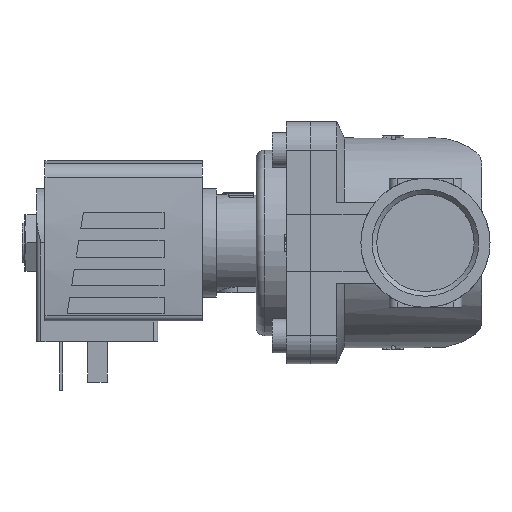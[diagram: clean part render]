
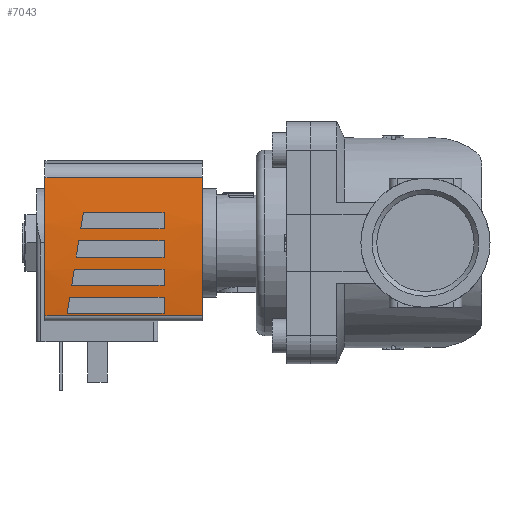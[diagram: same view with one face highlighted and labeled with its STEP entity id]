
A CAD part, left-side view. The second image highlights one B-rep face of the part: STEP entity #7043.
In plain terms, the highlighted cylindrical face has radius 130 mm (diameter 260 mm), a partial arc.
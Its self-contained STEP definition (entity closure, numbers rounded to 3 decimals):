
#169=ELLIPSE('',#7626,131.653,130.);
#170=ELLIPSE('',#7628,131.653,130.);
#171=ELLIPSE('',#7631,131.653,130.);
#172=ELLIPSE('',#7633,131.653,130.);
#252=CYLINDRICAL_SURFACE('',#7625,130.);
#647=LINE('',#11056,#1153);
#649=LINE('',#11076,#1155);
#650=LINE('',#11080,#1156);
#651=LINE('',#11081,#1157);
#652=LINE('',#11086,#1158);
#653=LINE('',#11091,#1159);
#654=LINE('',#11095,#1160);
#655=LINE('',#11099,#1161);
#656=LINE('',#11103,#1162);
#657=LINE('',#11107,#1163);
#1153=VECTOR('',#9075,1000.);
#1155=VECTOR('',#9097,1000.);
#1156=VECTOR('',#9100,1000.);
#1157=VECTOR('',#9101,1000.);
#1158=VECTOR('',#9104,1000.);
#1159=VECTOR('',#9109,1000.);
#1160=VECTOR('',#9112,1000.);
#1161=VECTOR('',#9115,1000.);
#1162=VECTOR('',#9118,1000.);
#1163=VECTOR('',#9121,1000.);
#2567=ORIENTED_EDGE('',*,*,#3619,.F.);
#2568=ORIENTED_EDGE('',*,*,#3620,.F.);
#2569=ORIENTED_EDGE('',*,*,#3621,.F.);
#2570=ORIENTED_EDGE('',*,*,#3622,.F.);
#2571=ORIENTED_EDGE('',*,*,#3623,.F.);
#2572=ORIENTED_EDGE('',*,*,#3624,.F.);
#2573=ORIENTED_EDGE('',*,*,#3625,.F.);
#2574=ORIENTED_EDGE('',*,*,#3626,.F.);
#2575=ORIENTED_EDGE('',*,*,#3627,.T.);
#2576=ORIENTED_EDGE('',*,*,#3628,.F.);
#2577=ORIENTED_EDGE('',*,*,#3613,.F.);
#2578=ORIENTED_EDGE('',*,*,#3610,.T.);
#2579=ORIENTED_EDGE('',*,*,#3629,.F.);
#2580=ORIENTED_EDGE('',*,*,#3630,.F.);
#2581=ORIENTED_EDGE('',*,*,#3631,.F.);
#2582=ORIENTED_EDGE('',*,*,#3632,.F.);
#2583=ORIENTED_EDGE('',*,*,#3633,.F.);
#2584=ORIENTED_EDGE('',*,*,#3634,.F.);
#2585=ORIENTED_EDGE('',*,*,#3635,.F.);
#2586=ORIENTED_EDGE('',*,*,#3636,.F.);
#3610=EDGE_CURVE('',#4241,#4240,#647,.T.);
#3613=EDGE_CURVE('',#4241,#4243,#4526,.T.);
#3619=EDGE_CURVE('',#4247,#4248,#169,.T.);
#3620=EDGE_CURVE('',#4249,#4247,#649,.F.);
#3621=EDGE_CURVE('',#4250,#4249,#4531,.T.);
#3622=EDGE_CURVE('',#4248,#4250,#650,.T.);
#3623=EDGE_CURVE('',#4251,#4252,#651,.T.);
#3624=EDGE_CURVE('',#4253,#4251,#170,.T.);
#3625=EDGE_CURVE('',#4254,#4253,#652,.F.);
#3626=EDGE_CURVE('',#4252,#4254,#4532,.T.);
#3627=EDGE_CURVE('',#4240,#4255,#4533,.T.);
#3628=EDGE_CURVE('',#4243,#4255,#653,.T.);
#3629=EDGE_CURVE('',#4256,#4257,#171,.T.);
#3630=EDGE_CURVE('',#4258,#4256,#654,.F.);
#3631=EDGE_CURVE('',#4259,#4258,#4534,.T.);
#3632=EDGE_CURVE('',#4257,#4259,#655,.T.);
#3633=EDGE_CURVE('',#4260,#4261,#172,.T.);
#3634=EDGE_CURVE('',#4262,#4260,#656,.F.);
#3635=EDGE_CURVE('',#4263,#4262,#4535,.T.);
#3636=EDGE_CURVE('',#4261,#4263,#657,.T.);
#4240=VERTEX_POINT('',#11055);
#4241=VERTEX_POINT('',#11057);
#4243=VERTEX_POINT('',#11063);
#4247=VERTEX_POINT('',#11074);
#4248=VERTEX_POINT('',#11075);
#4249=VERTEX_POINT('',#11077);
#4250=VERTEX_POINT('',#11079);
#4251=VERTEX_POINT('',#11082);
#4252=VERTEX_POINT('',#11083);
#4253=VERTEX_POINT('',#11085);
#4254=VERTEX_POINT('',#11087);
#4255=VERTEX_POINT('',#11090);
#4256=VERTEX_POINT('',#11093);
#4257=VERTEX_POINT('',#11094);
#4258=VERTEX_POINT('',#11096);
#4259=VERTEX_POINT('',#11098);
#4260=VERTEX_POINT('',#11101);
#4261=VERTEX_POINT('',#11102);
#4262=VERTEX_POINT('',#11104);
#4263=VERTEX_POINT('',#11106);
#4526=CIRCLE('',#7620,130.);
#4531=CIRCLE('',#7627,130.);
#4532=CIRCLE('',#7629,130.);
#4533=CIRCLE('',#7630,130.);
#4534=CIRCLE('',#7632,130.);
#4535=CIRCLE('',#7634,130.);
#4853=EDGE_LOOP('',(#2567,#2568,#2569,#2570));
#4854=EDGE_LOOP('',(#2571,#2572,#2573,#2574));
#4855=EDGE_LOOP('',(#2575,#2576,#2577,#2578));
#4856=EDGE_LOOP('',(#2579,#2580,#2581,#2582));
#4857=EDGE_LOOP('',(#2583,#2584,#2585,#2586));
#5249=FACE_BOUND('',#4853,.T.);
#5250=FACE_BOUND('',#4854,.T.);
#5251=FACE_BOUND('',#4855,.T.);
#5252=FACE_BOUND('',#4856,.T.);
#5253=FACE_BOUND('',#4857,.T.);
#7043=ADVANCED_FACE('',(#5249,#5250,#5251,#5252,#5253),#252,.T.);
#7620=AXIS2_PLACEMENT_3D('',#11062,#9082,#9083);
#7625=AXIS2_PLACEMENT_3D('',#11072,#9093,#9094);
#7626=AXIS2_PLACEMENT_3D('',#11073,#9095,#9096);
#7627=AXIS2_PLACEMENT_3D('',#11078,#9098,#9099);
#7628=AXIS2_PLACEMENT_3D('',#11084,#9102,#9103);
#7629=AXIS2_PLACEMENT_3D('',#11088,#9105,#9106);
#7630=AXIS2_PLACEMENT_3D('',#11089,#9107,#9108);
#7631=AXIS2_PLACEMENT_3D('',#11092,#9110,#9111);
#7632=AXIS2_PLACEMENT_3D('',#11097,#9113,#9114);
#7633=AXIS2_PLACEMENT_3D('',#11100,#9116,#9117);
#7634=AXIS2_PLACEMENT_3D('',#11105,#9119,#9120);
#9075=DIRECTION('',(0.,-1.,0.));
#9082=DIRECTION('',(0.,1.,0.));
#9083=DIRECTION('',(1.,0.,0.));
#9093=DIRECTION('',(0.,-1.,0.));
#9094=DIRECTION('',(0.,0.,-1.));
#9095=DIRECTION('',(-0.158,-0.987,0.));
#9096=DIRECTION('',(0.987,-0.158,0.));
#9097=DIRECTION('',(0.,-1.,0.));
#9098=DIRECTION('',(0.,1.,0.));
#9099=DIRECTION('',(0.,0.,1.));
#9100=DIRECTION('',(0.,-1.,0.));
#9101=DIRECTION('',(0.,-1.,0.));
#9102=DIRECTION('',(-0.158,-0.987,0.));
#9103=DIRECTION('',(0.987,-0.158,0.));
#9104=DIRECTION('',(0.,-1.,0.));
#9105=DIRECTION('',(0.,1.,0.));
#9106=DIRECTION('',(0.,0.,1.));
#9107=DIRECTION('',(0.,1.,0.));
#9108=DIRECTION('',(1.,0.,0.));
#9109=DIRECTION('',(0.,-1.,0.));
#9110=DIRECTION('',(-0.158,-0.987,0.));
#9111=DIRECTION('',(0.987,-0.158,0.));
#9112=DIRECTION('',(0.,-1.,0.));
#9113=DIRECTION('',(0.,1.,0.));
#9114=DIRECTION('',(0.,0.,1.));
#9115=DIRECTION('',(0.,-1.,0.));
#9116=DIRECTION('',(-0.158,-0.987,0.));
#9117=DIRECTION('',(0.987,-0.158,0.));
#9118=DIRECTION('',(0.,-1.,0.));
#9119=DIRECTION('',(0.,1.,0.));
#9120=DIRECTION('',(0.,0.,1.));
#9121=DIRECTION('',(0.,-1.,0.));
#11055=CARTESIAN_POINT('',(-18.071,-26.,14.738));
#11056=CARTESIAN_POINT('',(-18.071,13.,14.738));
#11057=CARTESIAN_POINT('',(-18.071,13.,14.738));
#11062=CARTESIAN_POINT('',(0.,13.,-114.));
#11063=CARTESIAN_POINT('',(16.195,13.,14.987));
#11072=CARTESIAN_POINT('',(0.,13.,-114.));
#11073=CARTESIAN_POINT('',(0.,4.7,-114.));
#11074=CARTESIAN_POINT('',(0.5,4.62,15.999));
#11075=CARTESIAN_POINT('',(-3.5,5.26,15.953));
#11076=CARTESIAN_POINT('',(0.5,13.,15.999));
#11077=CARTESIAN_POINT('',(0.5,-16.5,15.999));
#11078=CARTESIAN_POINT('',(0.,-16.5,-114.));
#11079=CARTESIAN_POINT('',(-3.5,-16.5,15.953));
#11080=CARTESIAN_POINT('',(-3.5,13.,15.953));
#11081=CARTESIAN_POINT('',(-17.5,13.,14.817));
#11082=CARTESIAN_POINT('',(-17.5,7.5,14.817));
#11083=CARTESIAN_POINT('',(-17.5,-16.5,14.817));
#11084=CARTESIAN_POINT('',(0.,4.7,-114.));
#11085=CARTESIAN_POINT('',(-13.5,6.86,15.297));
#11086=CARTESIAN_POINT('',(-13.5,13.,15.297));
#11087=CARTESIAN_POINT('',(-13.5,-16.5,15.297));
#11088=CARTESIAN_POINT('',(0.,-16.5,-114.));
#11089=CARTESIAN_POINT('',(0.,-26.,-114.));
#11090=CARTESIAN_POINT('',(16.195,-26.,14.987));
#11091=CARTESIAN_POINT('',(16.195,13.,14.987));
#11092=CARTESIAN_POINT('',(0.,4.7,-114.));
#11093=CARTESIAN_POINT('',(-6.5,5.74,15.837));
#11094=CARTESIAN_POINT('',(-10.5,6.38,15.575));
#11095=CARTESIAN_POINT('',(-6.5,13.,15.837));
#11096=CARTESIAN_POINT('',(-6.5,-16.5,15.837));
#11097=CARTESIAN_POINT('',(0.,-16.5,-114.));
#11098=CARTESIAN_POINT('',(-10.5,-16.5,15.575));
#11099=CARTESIAN_POINT('',(-10.5,13.,15.575));
#11100=CARTESIAN_POINT('',(0.,4.7,-114.));
#11101=CARTESIAN_POINT('',(7.5,3.5,15.783));
#11102=CARTESIAN_POINT('',(3.5,4.14,15.953));
#11103=CARTESIAN_POINT('',(7.5,13.,15.783));
#11104=CARTESIAN_POINT('',(7.5,-16.5,15.783));
#11105=CARTESIAN_POINT('',(0.,-16.5,-114.));
#11106=CARTESIAN_POINT('',(3.5,-16.5,15.953));
#11107=CARTESIAN_POINT('',(3.5,13.,15.953));
